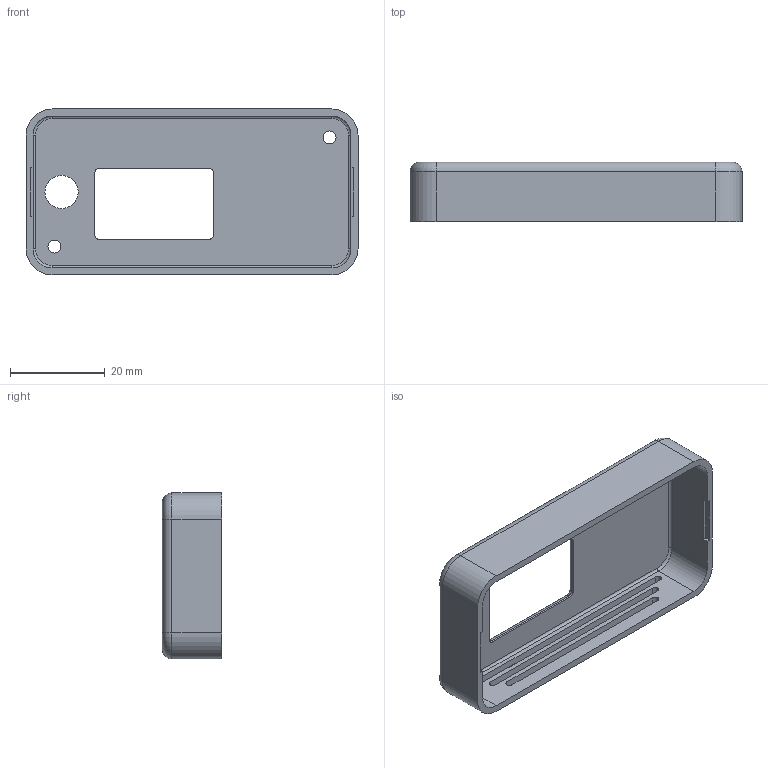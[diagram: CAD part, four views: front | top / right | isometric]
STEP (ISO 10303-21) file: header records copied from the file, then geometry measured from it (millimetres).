
FILE_DESCRIPTION((''),'2;1');
FILE_NAME('OBUDOWA_GORA','2020-02-19T09:01:43',('arogucki'),(''),'CREO PARAMETRIC BY PTC INC, 2019224','CREO PARAMETRIC BY PTC INC, 2019224','');
FILE_SCHEMA(('CONFIG_CONTROL_DESIGN'));
Length unit declared in the file: millimetre
Products named in the file (1): OBUDOWA_GORA
Bounding box: 70 x 12.5 x 35 mm (x, y, z)
Volume: 5653.1 mm3; surface area: 8602 mm2
Topology: 1 solids, 1 shells, 208 faces, 562 edges, 366 vertices
Faces by surface type: plane 91, extrusion 63, cylinder 40, torus 14
Entity records: 7557 total; most frequent: CARTESIAN_POINT 2425, ORIENTED_EDGE 1124, DIRECTION 885, EDGE_CURVE 562, VECTOR 403, VERTEX_POINT 366, LINE 340, AXIS2_PLACEMENT_3D 241
